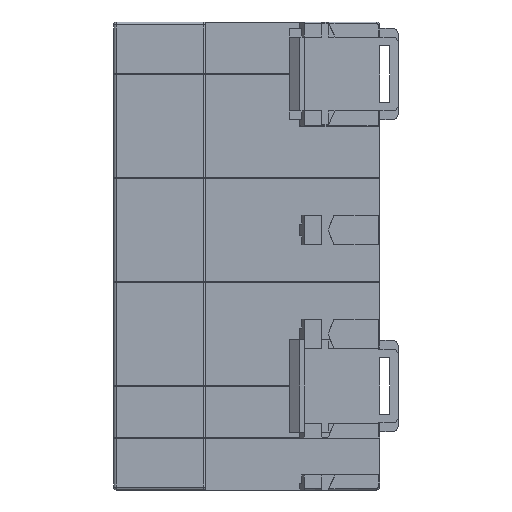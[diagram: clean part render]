
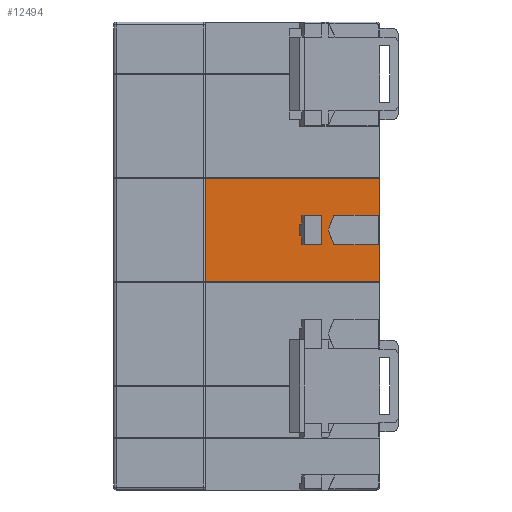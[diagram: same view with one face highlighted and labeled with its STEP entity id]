
A CAD part, front view. The second image highlights one B-rep face of the part: STEP entity #12494.
In plain terms, the highlighted planar face has unit normal (0, -1, 0).
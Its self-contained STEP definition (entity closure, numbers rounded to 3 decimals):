
#307=FACE_BOUND('',#1580,.T.);
#868=FACE_OUTER_BOUND('',#1579,.T.);
#1579=EDGE_LOOP('',(#8631,#8632,#8633,#8634,#8635,#8636,#8637,#8638,#8639));
#1580=EDGE_LOOP('',(#8640,#8641,#8642,#8643));
#2540=LINE('',#18318,#3966);
#2541=LINE('',#18320,#3967);
#2542=LINE('',#18322,#3968);
#2543=LINE('',#18324,#3969);
#2544=LINE('',#18326,#3970);
#2545=LINE('',#18328,#3971);
#2546=LINE('',#18330,#3972);
#2547=LINE('',#18332,#3973);
#2548=LINE('',#18333,#3974);
#2549=LINE('',#18336,#3975);
#2550=LINE('',#18338,#3976);
#2551=LINE('',#18340,#3977);
#2552=LINE('',#18341,#3978);
#3966=VECTOR('',#14627,62.5);
#3967=VECTOR('',#14628,15.575);
#3968=VECTOR('',#14629,16.64);
#3969=VECTOR('',#14630,2.14);
#3970=VECTOR('',#14631,2.14);
#3971=VECTOR('',#14632,16.64);
#3972=VECTOR('',#14633,15.575);
#3973=VECTOR('',#14634,62.5);
#3974=VECTOR('',#14635,35.15);
#3975=VECTOR('',#14636,4.);
#3976=VECTOR('',#14637,7.5);
#3977=VECTOR('',#14638,4.);
#3978=VECTOR('',#14639,7.5);
#5336=VERTEX_POINT('',#18316);
#5337=VERTEX_POINT('',#18317);
#5338=VERTEX_POINT('',#18319);
#5339=VERTEX_POINT('',#18321);
#5340=VERTEX_POINT('',#18323);
#5341=VERTEX_POINT('',#18325);
#5342=VERTEX_POINT('',#18327);
#5343=VERTEX_POINT('',#18329);
#5344=VERTEX_POINT('',#18331);
#5345=VERTEX_POINT('',#18334);
#5346=VERTEX_POINT('',#18335);
#5347=VERTEX_POINT('',#18337);
#5348=VERTEX_POINT('',#18339);
#6627=EDGE_CURVE('',#5336,#5337,#2540,.T.);
#6628=EDGE_CURVE('',#5338,#5337,#2541,.T.);
#6629=EDGE_CURVE('',#5338,#5339,#2542,.T.);
#6630=EDGE_CURVE('',#5340,#5339,#2543,.T.);
#6631=EDGE_CURVE('',#5341,#5340,#2544,.T.);
#6632=EDGE_CURVE('',#5342,#5341,#2545,.T.);
#6633=EDGE_CURVE('',#5343,#5342,#2546,.T.);
#6634=EDGE_CURVE('',#5343,#5344,#2547,.T.);
#6635=EDGE_CURVE('',#5336,#5344,#2548,.T.);
#6636=EDGE_CURVE('',#5345,#5346,#2549,.T.);
#6637=EDGE_CURVE('',#5345,#5347,#2550,.T.);
#6638=EDGE_CURVE('',#5347,#5348,#2551,.T.);
#6639=EDGE_CURVE('',#5346,#5348,#2552,.T.);
#8631=ORIENTED_EDGE('',*,*,#6627,.T.);
#8632=ORIENTED_EDGE('',*,*,#6628,.F.);
#8633=ORIENTED_EDGE('',*,*,#6629,.T.);
#8634=ORIENTED_EDGE('',*,*,#6630,.F.);
#8635=ORIENTED_EDGE('',*,*,#6631,.F.);
#8636=ORIENTED_EDGE('',*,*,#6632,.F.);
#8637=ORIENTED_EDGE('',*,*,#6633,.F.);
#8638=ORIENTED_EDGE('',*,*,#6634,.T.);
#8639=ORIENTED_EDGE('',*,*,#6635,.F.);
#8640=ORIENTED_EDGE('',*,*,#6636,.F.);
#8641=ORIENTED_EDGE('',*,*,#6637,.T.);
#8642=ORIENTED_EDGE('',*,*,#6638,.T.);
#8643=ORIENTED_EDGE('',*,*,#6639,.F.);
#11917=PLANE('',#13221);
#12494=ADVANCED_FACE('',(#868,#307),#11917,.T.);
#13221=AXIS2_PLACEMENT_3D('',#18315,#14625,#14626);
#14625=DIRECTION('center_axis',(0.,-1.,0.));
#14626=DIRECTION('ref_axis',(1.,0.,0.));
#14627=DIRECTION('',(1.,0.,0.));
#14628=DIRECTION('',(0.,0.,-1.));
#14629=DIRECTION('',(-1.,0.,0.));
#14630=DIRECTION('',(0.355,0.,-0.935));
#14631=DIRECTION('',(-0.355,0.,-0.935));
#14632=DIRECTION('',(-1.,0.,0.));
#14633=DIRECTION('',(0.,0.,-1.));
#14634=DIRECTION('',(-1.,0.,0.));
#14635=DIRECTION('',(0.,0.,1.));
#14636=DIRECTION('',(0.,0.,1.));
#14637=DIRECTION('',(-1.,0.,0.));
#14638=DIRECTION('',(0.,0.,1.));
#14639=DIRECTION('',(-1.,0.,0.));
#18315=CARTESIAN_POINT('Origin',(27.5,6.,0.));
#18316=CARTESIAN_POINT('',(27.5,6.,70.425));
#18317=CARTESIAN_POINT('',(90.,6.,70.425));
#18318=CARTESIAN_POINT('',(51.947,6.,70.425));
#18319=CARTESIAN_POINT('',(90.,6.,86.));
#18320=CARTESIAN_POINT('',(90.,6.,61.6));
#18321=CARTESIAN_POINT('',(73.36,6.,86.));
#18322=CARTESIAN_POINT('',(90.,6.,86.));
#18323=CARTESIAN_POINT('',(72.6,6.,88.));
#18324=CARTESIAN_POINT('',(72.591,6.,88.025));
#18325=CARTESIAN_POINT('',(73.36,6.,90.));
#18326=CARTESIAN_POINT('',(73.541,6.,90.475));
#18327=CARTESIAN_POINT('',(90.,6.,90.));
#18328=CARTESIAN_POINT('',(90.,6.,90.));
#18329=CARTESIAN_POINT('',(90.,6.,105.575));
#18330=CARTESIAN_POINT('',(90.,6.,46.5));
#18331=CARTESIAN_POINT('',(27.5,6.,105.575));
#18332=CARTESIAN_POINT('',(34.749,6.,105.575));
#18333=CARTESIAN_POINT('',(27.5,6.,0.));
#18334=CARTESIAN_POINT('',(70.4,6.,86.));
#18335=CARTESIAN_POINT('',(70.4,6.,90.));
#18336=CARTESIAN_POINT('',(70.4,6.,85.5));
#18337=CARTESIAN_POINT('',(62.9,6.,86.));
#18338=CARTESIAN_POINT('',(90.,6.,86.));
#18339=CARTESIAN_POINT('',(62.9,6.,90.));
#18340=CARTESIAN_POINT('',(62.9,6.,44.));
#18341=CARTESIAN_POINT('',(90.,6.,90.));
